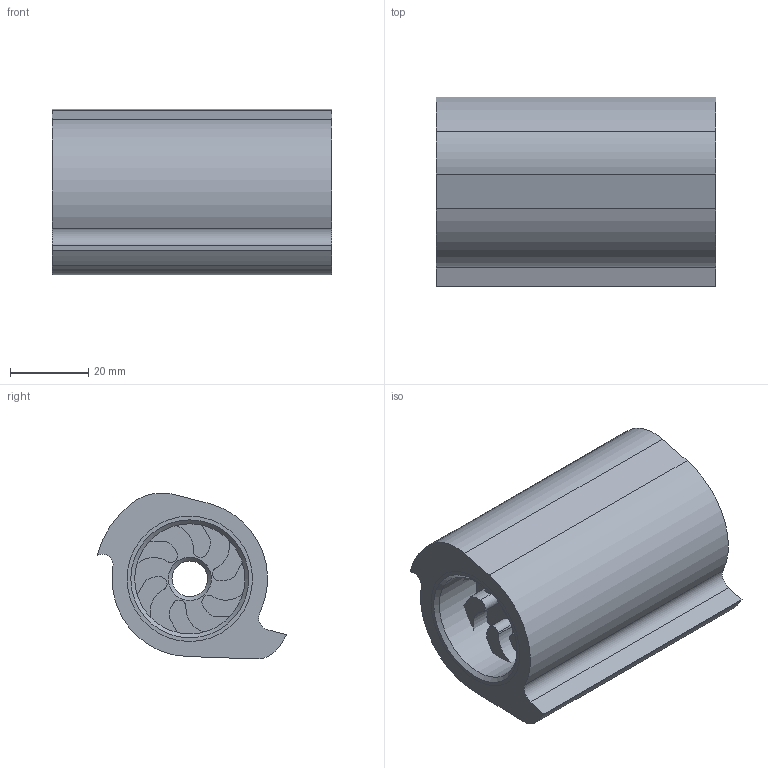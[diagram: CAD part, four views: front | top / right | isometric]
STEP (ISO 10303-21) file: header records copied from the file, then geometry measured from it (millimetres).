
FILE_DESCRIPTION(/* description */ (''),/* implementation_level */ '2;1');
FILE_NAME(/* name */ 'arma.step',/* time_stamp */ '2026-03-09T12:15:52+01:00',/* author */ (''),/* organization */ (''),/* preprocessor_version */ 'ST-DEVELOPER v20.1',/* originating_system */ 'Autodesk Translation Framework v14.24.0.0',/* authorisation */ '');
FILE_SCHEMA (('AUTOMOTIVE_DESIGN { 1 0 10303 214 3 1 1 }'));
Length unit declared in the file: millimetre
Products named in the file (2): arma (Ensamblaje); RR 2822 Drum
Assembly tree (1 placements, depth 2):
  arma (Ensamblaje)
    RR 2822 Drum
Bounding box: 71.44 x 48.36 x 42.32 mm (x, y, z)
Volume: 90967.7 mm3; surface area: 19319.9 mm2
Topology: 2 solids, 2 shells, 82 faces, 222 edges, 147 vertices
Faces by surface type: cylinder 63, plane 16, cone 3
Full cylindrical faces by diameter (mm): 9.1 x1, 22 x1, 28.1 x1, 32 x1, 35.861 x1
Entity records: 2727 total; most frequent: DIRECTION 521, CARTESIAN_POINT 454, ORIENTED_EDGE 444, EDGE_CURVE 222, AXIS2_PLACEMENT_3D 214, VERTEX_POINT 147, CIRCLE 129, LINE 93
